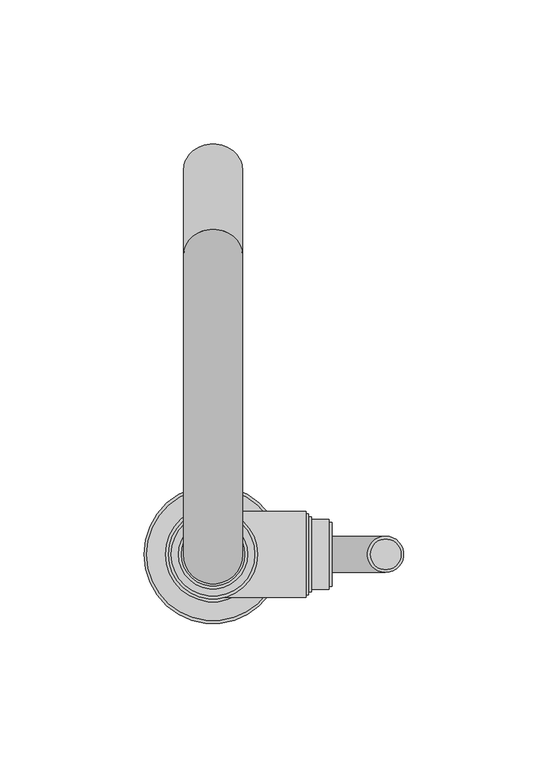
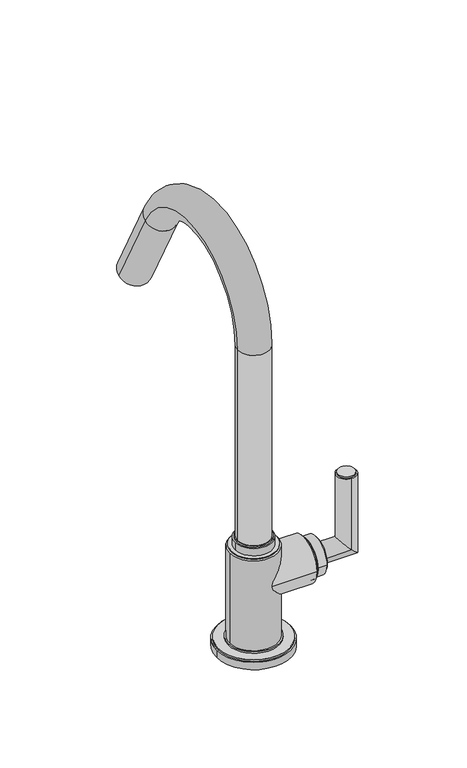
"""IFC4 building model written with IfcOpenShell, lengths in millimetres: flow terminal geometry, Deca_Torneira Lavatorio Izy Plus_1198.C24_Mesa Bica Alta : Torneira Cozinha."""

from ifc_helpers import new_model, si_unit, point, frame, frame_2d, origin, origin_with_axes, place, context, project, spatial, circle_curve, ellipse_curve, trimmed, segment, composite_curve, outline, extrude, source, transform, mapped, element, save
from ifc_brep_helpers import plane_surface, cylinder_surface, revolved_surface, advanced_brep


def flow_terminal_63f1f31f(model_context):
    return source(origin(), model_context, "Body", "SolidModel", [
        extrude(outline(composite_curve([segment(trimmed(circle_curve(frame_2d((60.0, -0.015)), 5.315), [point((54.685, -0.015))], [point((65.315, -0.015))], False, "CARTESIAN"), True, "CONTINUOUS"), segment(trimmed(circle_curve(frame_2d((60.0, -0.015)), 5.315), [point((65.315, -0.015))], [point((54.685, -0.015))], False, "CARTESIAN"), True, "CONTINUOUS")], self_intersect=False)), frame((0.0, 0.0, 96.8062148), z_axis=(0.0, 0.0, 1.0), x_axis=(1.0, 0.0, 0.0)), (0.0, 0.0, 1.0), 1.0),
        advanced_brep(
        [(40.2882898, -6.31, 47.9144635), (40.2882898, 6.31, 47.9144635), (59.9272989, 6.31, 47.9144635), (59.9272989, -6.31, 47.9144635), (59.9272989, -6.31, 96.8234726), (59.9272989, 6.31, 96.8234726)],
        [
            (0, 1, circle_curve(frame((40.2882898, 0.0, 47.9144635), z_axis=(-1.0, 0.0, 0.0), x_axis=(0.0, 1.0, 0.0)), 6.31)),
            (1, 0, circle_curve(frame((40.2882898, 0.0, 47.9144635), z_axis=(-1.0, 0.0, 0.0), x_axis=(0.0, 1.0, 0.0)), 6.31)),
            (1, 2),
            (2, 3, ellipse_curve(frame((59.9272989, 0.0, 47.9144635), z_axis=(-0.7071067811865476, 0.0, -0.7071067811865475), x_axis=(-0.7071067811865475, 0.0, 0.7071067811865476)), 8.9236876, 6.31)),
            (3, 0),
            (3, 2, ellipse_curve(frame((59.9272989, 0.0, 47.9144635), z_axis=(-0.7071067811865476, 0.0, -0.7071067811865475), x_axis=(-0.7071067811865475, 0.0, 0.7071067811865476)), 8.9236876, 6.31)),
            (4, 5, circle_curve(frame((59.9272989, 0.0, 96.8234726), z_axis=(0.0, 0.0, 1.0), x_axis=(0.0, 1.0, 0.0)), 6.31)),
            (5, 4, circle_curve(frame((59.9272989, 0.0, 96.8234726), z_axis=(0.0, 0.0, 1.0), x_axis=(0.0, 1.0, 0.0)), 6.31)),
            (2, 5),
            (4, 3),
        ],
        [
            plane_surface(frame((40.2882898, 0.0, 41.5684726), z_axis=(-1.0, 0.0, 0.0), x_axis=(0.0, 1.0, 0.0))),
            cylinder_surface(frame((40.2882898, 0.0, 47.9144635), z_axis=(-1.0, 0.0, 0.0), x_axis=(0.0, 1.0, 0.0)), 6.31),
            plane_surface(frame((66.2732898, 0.0, 96.8234726), z_axis=(0.0, 0.0, 1.0), x_axis=(0.0, 1.0, 0.0))),
            cylinder_surface(frame((59.9272989, 0.0, 41.5684726), z_axis=(0.0, 0.0, -1.0), x_axis=(0.0, 1.0, 0.0)), 6.31),
        ],
        [
            (0, [[1, 2]]),
            (1, [[3, 4, 5, -2]]),
            (1, [[-5, 6, -3, -1]]),
            (2, [[7, 8]]),
            (3, [[9, -7, 10, -4]]),
            (3, [[-10, -8, -9, -6]]),
        ],
    ),
        extrude(outline(composite_curve([segment(trimmed(circle_curve(frame_2d((0.0, 47.875401)), 12.13), [point((12.13, 47.875401))], [point((-12.13, 47.875401))], False, "CARTESIAN"), True, "CONTINUOUS"), segment(trimmed(circle_curve(frame_2d((0.0, 47.875401)), 12.13), [point((-12.13, 47.875401))], [point((12.13, 47.875401))], False, "CARTESIAN"), True, "CONTINUOUS")], self_intersect=False)), frame((32.2082898, 0.0, 0.0), z_axis=(1.0, 0.0, 0.0), x_axis=(0.0, 1.0, 0.0)), (0.0, 0.0, 1.0), 8.08),
        extrude(outline(composite_curve([segment(trimmed(circle_curve(frame_2d((0.0, 47.875401)), 14.9), [point((14.9, 47.875401))], [point((-14.9, 47.875401))], False, "CARTESIAN"), True, "CONTINUOUS"), segment(trimmed(circle_curve(frame_2d((0.0, 47.875401)), 14.9), [point((-14.9, 47.875401))], [point((14.9, 47.875401))], False, "CARTESIAN"), True, "CONTINUOUS")], self_intersect=False)), frame((3.2524235, 0.0, 0.0), z_axis=(1.0, 0.0, 0.0), x_axis=(0.0, 1.0, 0.0)), (0.0, 0.0, 1.0), 28.9558664),
        advanced_brep(
        [(-10.3, -0.015, 68.4648981), (10.3, -0.015, 68.4648981), (10.3, -0.015, 205.2001719), (-10.3, -0.015, 205.2001719), (10.3, 103.7545698, 231.1620339), (-10.3, 103.7545698, 231.1620339), (-10.3, 133.4040596, 175.6164919), (10.3, 133.4040596, 175.6164919)],
        [
            (0, 1, circle_curve(frame((0.0, -0.015, 68.4648981), z_axis=(0.0, 0.0, -1.0), x_axis=(1.0, 0.0, 0.0)), 10.3)),
            (1, 0, circle_curve(frame((0.0, -0.015, 68.4648981), z_axis=(0.0, 0.0, -1.0), x_axis=(1.0, 0.0, 0.0)), 10.3)),
            (1, 2),
            (2, 3, circle_curve(frame((0.0, -0.015, 205.2001719), z_axis=(0.0, 0.0, -1.0), x_axis=(1.0, 0.0, 0.0)), 10.3)),
            (3, 0),
            (3, 2, circle_curve(frame((0.0, -0.015, 205.2001719), z_axis=(0.0, 0.0, -1.0), x_axis=(1.0, 0.0, 0.0)), 10.3)),
            (4, 5, circle_curve(frame((0.0, 103.7545698, 231.1620339), z_axis=(0.0, -0.4708998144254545, 0.8821866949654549), x_axis=(1.0, 0.0, 0.0)), 10.3)),
            (5, 3, circle_curve(frame((-10.3, 55.1174532, 205.2001719), z_axis=(1.0, 0.0, 0.0), x_axis=(0.0, -1.0, 0.0)), 55.1324532)),
            (2, 4, circle_curve(frame((10.3, 55.1174532, 205.2001719), z_axis=(-1.0, 0.0, 0.0), x_axis=(0.0, -1.0, 0.0)), 55.1324532)),
            (5, 4, circle_curve(frame((0.0, 103.7545698, 231.1620339), z_axis=(0.0, -0.4708998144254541, 0.8821866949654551), x_axis=(1.0, 0.0, 0.0)), 10.3)),
            (6, 7, circle_curve(frame((0.0, 133.4040596, 175.6164919), z_axis=(0.0, 0.4708998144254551, -0.8821866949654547), x_axis=(1.0, 0.0, 0.0)), 10.3)),
            (7, 6, circle_curve(frame((0.0, 133.4040596, 175.6164919), z_axis=(0.0, 0.4708998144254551, -0.8821866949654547), x_axis=(1.0, 0.0, 0.0)), 10.3)),
            (4, 7),
            (6, 5),
        ],
        [
            plane_surface(frame((0.0, -10.3425468, 68.4648981), z_axis=(0.0, 0.0, -1.0), x_axis=(1.0, 0.0, 0.0))),
            cylinder_surface(frame((0.0, -0.015, 68.4648981), z_axis=(0.0, 0.0, -1.0), x_axis=(1.0, 0.0, 0.0)), 10.3),
            revolved_surface(trimmed(ellipse_curve(frame((0.0, -0.015, 205.2001719), z_axis=(0.0, 0.0, 1.0), x_axis=(1.0, 0.0, 0.0)), 10.3, 10.3), [point((-10.3, -0.015, 205.2001719))], [point((10.3, -0.015, 205.2001719))], True, "CARTESIAN"), (0.0, 55.1174532, 205.2001719), (1.0, 0.0, 0.0)),
            revolved_surface(trimmed(ellipse_curve(frame((0.0, -0.015, 205.2001719), z_axis=(0.0, 0.0, 1.0), x_axis=(1.0, 0.0, 0.0)), 10.3, 10.3), [point((10.3, -0.015, 205.2001719))], [point((-10.3, -0.015, 205.2001719))], True, "CARTESIAN"), (0.0, 55.1174532, 205.2001719), (1.0, 0.0, 0.0)),
            plane_surface(frame((0.0, 142.514884, 180.4797318), z_axis=(0.0, 0.4708998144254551, -0.8821866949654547), x_axis=(1.0, 0.0, 0.0))),
            cylinder_surface(frame((0.0, 103.7545698, 231.1620339), z_axis=(0.0, -0.4708998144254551, 0.8821866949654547), x_axis=(1.0, 0.0, 0.0)), 10.3),
        ],
        [
            (0, [[1, 2]]),
            (1, [[3, 4, 5, -2]]),
            (1, [[-5, 6, -3, -1]]),
            (2, [[7, 8, -4, 9]]),
            (3, [[10, -9, -6, -8]]),
            (4, [[11, 12]]),
            (5, [[13, -11, 14, -7]]),
            (5, [[-14, -12, -13, -10]]),
        ],
    ),
        extrude(outline(composite_curve([segment(trimmed(circle_curve(frame_2d((0.0, -0.015)), 15.5), [point((-15.5, -0.015))], [point((15.5, -0.015))], False, "CARTESIAN"), True, "CONTINUOUS"), segment(trimmed(circle_curve(frame_2d((0.0, -0.015)), 15.5), [point((15.5, -0.015))], [point((-15.5, -0.015))], False, "CARTESIAN"), True, "CONTINUOUS")], self_intersect=False)), frame((0.0, 0.0, 7.0), z_axis=(0.0, 0.0, 1.0), x_axis=(1.0, 0.0, 0.0)), (0.0, 0.0, 1.0), 61.4648981),
        extrude(outline(composite_curve([segment(trimmed(circle_curve(frame_2d((0.0, -0.015)), 16.5), [point((-16.5, -0.015))], [point((16.5, -0.015))], False, "CARTESIAN"), True, "CONTINUOUS"), segment(trimmed(circle_curve(frame_2d((0.0, -0.015)), 16.5), [point((16.5, -0.015))], [point((-16.5, -0.015))], False, "CARTESIAN"), True, "CONTINUOUS")], self_intersect=False)), frame((0.0, 0.0, 6.0), z_axis=(0.0, 0.0, 1.0), x_axis=(1.0, 0.0, 0.0)), (0.0, 0.0, 1.0), 1.0),
        extrude(outline(composite_curve([segment(trimmed(circle_curve(frame_2d((0.0, -0.015)), 23.0), [point((-23.0, -0.015))], [point((23.0, -0.015))], False, "CARTESIAN"), True, "CONTINUOUS"), segment(trimmed(circle_curve(frame_2d((0.0, -0.015)), 23.0), [point((23.0, -0.015))], [point((-23.0, -0.015))], False, "CARTESIAN"), True, "CONTINUOUS")], self_intersect=False)), frame((0.0, 0.0, 5.0), z_axis=(0.0, 0.0, 1.0), x_axis=(1.0, 0.0, 0.0)), (0.0, 0.0, 1.0), 1.0),
        extrude(outline(composite_curve([segment(trimmed(circle_curve(frame_2d((0.0, -0.015)), 24.0), [point((-24.0, -0.015))], [point((24.0, -0.015))], False, "CARTESIAN"), True, "CONTINUOUS"), segment(trimmed(circle_curve(frame_2d((0.0, -0.015)), 24.0), [point((24.0, -0.015))], [point((-24.0, -0.015))], False, "CARTESIAN"), True, "CONTINUOUS")], self_intersect=False)), origin_with_axes(), (0.0, 0.0, 1.0), 5.0),
        extrude(outline(composite_curve([segment(trimmed(circle_curve(frame_2d((0.0, 47.9144635)), 11.1), [point((11.1, 47.9144635))], [point((-11.1, 47.9144635))], False, "CARTESIAN"), True, "CONTINUOUS"), segment(trimmed(circle_curve(frame_2d((0.0, 47.9144635)), 11.1), [point((-11.1, 47.9144635))], [point((11.1, 47.9144635))], False, "CARTESIAN"), True, "CONTINUOUS")], self_intersect=False)), frame((40.2882898, 0.0, 0.0), z_axis=(1.0, 0.0, 0.0), x_axis=(0.0, 1.0, 0.0)), (0.0, 0.0, 1.0), 1.0),
        extrude(outline(composite_curve([segment(trimmed(circle_curve(frame_2d((0.0, 47.797276)), 13.0), [point((13.0, 47.797276))], [point((-13.0, 47.797276))], False, "CARTESIAN"), True, "CONTINUOUS"), segment(trimmed(circle_curve(frame_2d((0.0, 47.797276)), 13.0), [point((-13.0, 47.797276))], [point((13.0, 47.797276))], False, "CARTESIAN"), True, "CONTINUOUS")], self_intersect=False)), frame((33.2082898, 0.0, 0.0), z_axis=(1.0, 0.0, 0.0), x_axis=(0.0, 1.0, 0.0)), (0.0, 0.0, 1.0), 1.0),
        extrude(outline(composite_curve([segment(trimmed(circle_curve(frame_2d((0.0, 47.797276)), 14.0), [point((14.0, 47.797276))], [point((-14.0, 47.797276))], False, "CARTESIAN"), True, "CONTINUOUS"), segment(trimmed(circle_curve(frame_2d((0.0, 47.797276)), 14.0), [point((-14.0, 47.797276))], [point((14.0, 47.797276))], False, "CARTESIAN"), True, "CONTINUOUS")], self_intersect=False)), frame((32.2082898, 0.0, 0.0), z_axis=(1.0, 0.0, 0.0), x_axis=(0.0, 1.0, 0.0)), (0.0, 0.0, 1.0), 1.0),
        extrude(outline(composite_curve([segment(trimmed(circle_curve(frame_2d((0.0, -0.015)), 11.0), [point((-11.0, -0.015))], [point((11.0, -0.015))], False, "CARTESIAN"), True, "CONTINUOUS"), segment(trimmed(circle_curve(frame_2d((0.0, -0.015)), 11.0), [point((11.0, -0.015))], [point((-11.0, -0.015))], False, "CARTESIAN"), True, "CONTINUOUS")], self_intersect=False)), frame((0.0, 0.0, 74.4648981), z_axis=(0.0, 0.0, 1.0), x_axis=(1.0, 0.0, 0.0)), (0.0, 0.0, 1.0), 1.0),
        extrude(outline(composite_curve([segment(trimmed(circle_curve(frame_2d((0.0, -0.015)), 12.0), [point((-12.0, -0.015))], [point((12.0, -0.015))], False, "CARTESIAN"), True, "CONTINUOUS"), segment(trimmed(circle_curve(frame_2d((0.0, -0.015)), 12.0), [point((12.0, -0.015))], [point((-12.0, -0.015))], False, "CARTESIAN"), True, "CONTINUOUS")], self_intersect=False)), frame((0.0, 0.0, 69.4648981), z_axis=(0.0, 0.0, 1.0), x_axis=(1.0, 0.0, 0.0)), (0.0, 0.0, 1.0), 5.0),
        extrude(outline(composite_curve([segment(trimmed(circle_curve(frame_2d((0.0, -0.015)), 14.5), [point((-14.5, -0.015))], [point((14.5, -0.015))], False, "CARTESIAN"), True, "CONTINUOUS"), segment(trimmed(circle_curve(frame_2d((0.0, -0.015)), 14.5), [point((14.5, -0.015))], [point((-14.5, -0.015))], False, "CARTESIAN"), True, "CONTINUOUS")], self_intersect=False)), frame((0.0, 0.0, 68.4648981), z_axis=(0.0, 0.0, 1.0), x_axis=(1.0, 0.0, 0.0)), (0.0, 0.0, 1.0), 1.0),
    ])


if __name__ == "__main__":
    model = new_model("IFC4")
    model_context = context("Model", 3, world=origin())
    ifc_project = project(units=[si_unit("LENGTHUNIT", "METRE", prefix="MILLI")], contexts=[model_context])
    site = spatial("IfcSite", under=ifc_project)
    building = spatial("IfcBuilding", under=site)
    placement = place(None, origin())
    flow_terminal_shape = flow_terminal_63f1f31f(model_context)
    element("IfcFlowTerminal", 1, ObjectType="Deca_Torneira Lavatorio Izy Plus_1198.C24_Mesa Bica Alta : Torneira Cozinha", at=placement, inside=building, context=model_context, shape_type="MappedRepresentation", body=[
        mapped(flow_terminal_shape, transform((0.0, 0.0, 0.0), x_axis=(1.0, 0.0, 0.0), y_axis=(0.0, 1.0, 0.0), z_axis=(0.0, 0.0, 1.0))),
    ])
    save(model, "model.ifc")
